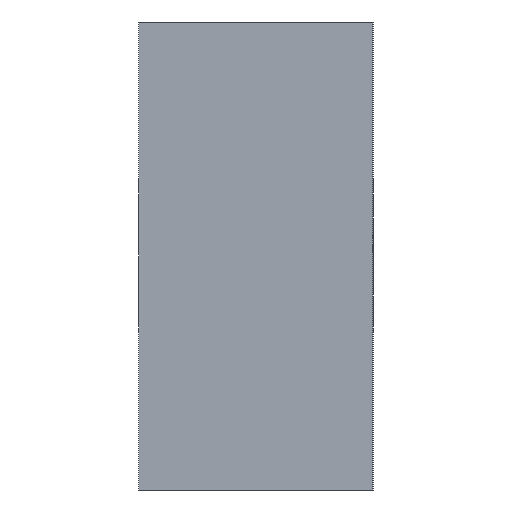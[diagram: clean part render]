
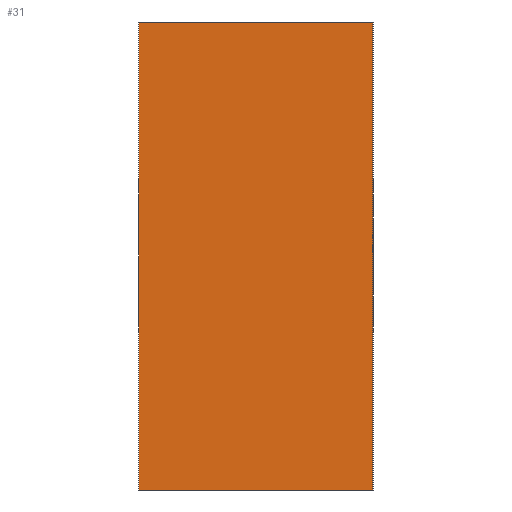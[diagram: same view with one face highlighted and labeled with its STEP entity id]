
A CAD part, left-side view. The second image highlights one B-rep face of the part: STEP entity #31.
In plain terms, the highlighted planar face has unit normal (-1, 0, 0).
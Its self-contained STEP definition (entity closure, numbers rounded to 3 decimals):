
#2 = CARTESIAN_POINT ( 'NONE',  ( -9.171, 3., -4.071 ) ) ;
#19 = DIRECTION ( 'NONE',  ( 0., 0., 1. ) ) ;
#31 = ADVANCED_FACE ( 'NONE', ( #212 ), #62, .F. ) ;
#33 = ORIENTED_EDGE ( 'NONE', *, *, #113, .F. ) ;
#42 = VECTOR ( 'NONE', #181, 1000. ) ;
#62 = PLANE ( 'NONE',  #289 ) ;
#88 = CARTESIAN_POINT ( 'NONE',  ( -9.171, 3., -4.071 ) ) ;
#94 = VECTOR ( 'NONE', #19, 1000. ) ;
#110 = EDGE_LOOP ( 'NONE', ( #134, #204, #33, #297 ) ) ;
#113 = EDGE_CURVE ( 'NONE', #250, #118, #275, .T. ) ;
#118 = VERTEX_POINT ( 'NONE', #121 ) ;
#121 = CARTESIAN_POINT ( 'NONE',  ( -9.171, 3., 1.929 ) ) ;
#122 = CARTESIAN_POINT ( 'NONE',  ( -9.171, 3., -4.071 ) ) ;
#134 = ORIENTED_EDGE ( 'NONE', *, *, #300, .T. ) ;
#143 = DIRECTION ( 'NONE',  ( 1., 0., 0. ) ) ;
#152 = VECTOR ( 'NONE', #225, 1000. ) ;
#157 = LINE ( 'NONE', #281, #152 ) ;
#165 = DIRECTION ( 'NONE',  ( 0., 0., -1. ) ) ;
#168 = CARTESIAN_POINT ( 'NONE',  ( -9.171, 3., -4.071 ) ) ;
#179 = DIRECTION ( 'NONE',  ( 0., 0., 1. ) ) ;
#181 = DIRECTION ( 'NONE',  ( 0., -1., 0. ) ) ;
#195 = EDGE_CURVE ( 'NONE', #250, #228, #251, .T. ) ;
#200 = LINE ( 'NONE', #248, #94 ) ;
#204 = ORIENTED_EDGE ( 'NONE', *, *, #272, .F. ) ;
#211 = CARTESIAN_POINT ( 'NONE',  ( -9.171, 0., 1.929 ) ) ;
#212 = FACE_OUTER_BOUND ( 'NONE', #110, .T. ) ;
#225 = DIRECTION ( 'NONE',  ( 0., -1., 0. ) ) ;
#228 = VERTEX_POINT ( 'NONE', #254 ) ;
#248 = CARTESIAN_POINT ( 'NONE',  ( -9.171, 0., -4.071 ) ) ;
#250 = VERTEX_POINT ( 'NONE', #122 ) ;
#251 = LINE ( 'NONE', #168, #42 ) ;
#254 = CARTESIAN_POINT ( 'NONE',  ( -9.171, 0., -4.071 ) ) ;
#272 = EDGE_CURVE ( 'NONE', #118, #288, #157, .T. ) ;
#275 = LINE ( 'NONE', #2, #283 ) ;
#281 = CARTESIAN_POINT ( 'NONE',  ( -9.171, 3., 1.929 ) ) ;
#283 = VECTOR ( 'NONE', #179, 1000. ) ;
#288 = VERTEX_POINT ( 'NONE', #211 ) ;
#289 = AXIS2_PLACEMENT_3D ( 'NONE', #88, #143, #165 ) ;
#297 = ORIENTED_EDGE ( 'NONE', *, *, #195, .T. ) ;
#300 = EDGE_CURVE ( 'NONE', #228, #288, #200, .T. ) ;
